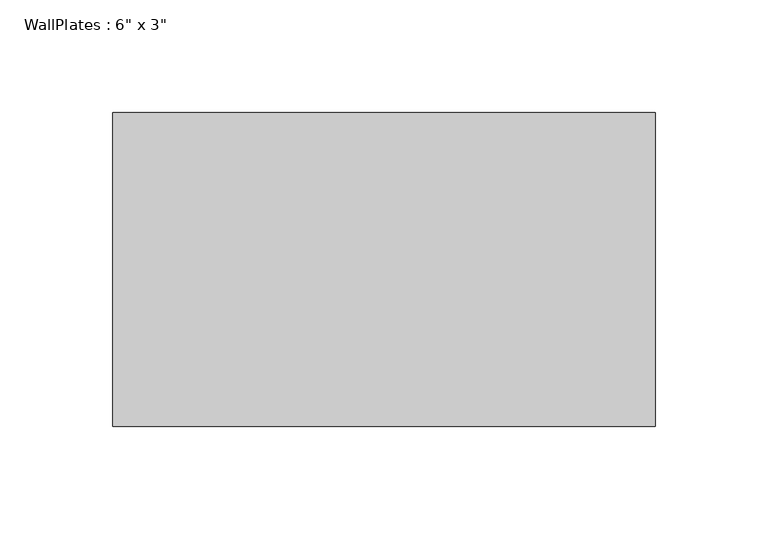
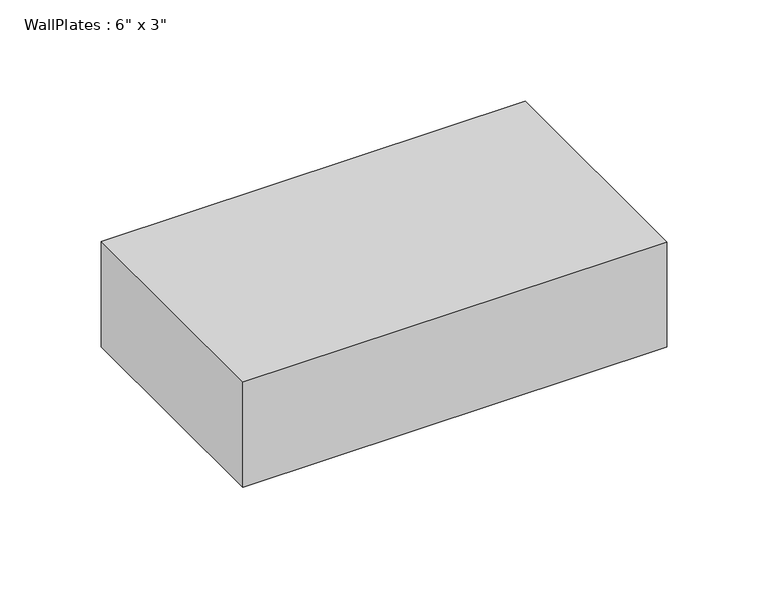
"""IFC4 building model written with IfcOpenShell, lengths in millimetres: beam geometry."""

from ifc_helpers import new_model, si_unit, frame, origin, place, context, project, spatial, polyline, outline, extrude, source, transform, mapped, element, save


def beam_99146412(model_context):
    return source(origin(), model_context, "Body", "SweptSolid", [
        extrude(outline(polyline([(-120.655, -69.85), (-120.655, 69.85), (120.655, 69.85), (120.655, -69.85), (-120.655, -69.85)])), frame((0.0, 0.0, -31.75), z_axis=(0.0, 0.0, 1.0), x_axis=(1.0, 0.0, 0.0)), (0.0, 0.0, 1.0), 63.5),
    ])


if __name__ == "__main__":
    model = new_model("IFC4")
    model_context = context("Model", 3, world=origin())
    ifc_project = project(units=[si_unit("LENGTHUNIT", "METRE", prefix="MILLI")], contexts=[model_context])
    site = spatial("IfcSite", under=ifc_project)
    building = spatial("IfcBuilding", under=site)
    placement = place(None, origin())
    beam_shape = beam_99146412(model_context)
    element("IfcBeam", 1, ObjectType="WallPlates : 6\" x 3\"", at=placement, inside=building, context=model_context, shape_type="MappedRepresentation", body=[
        mapped(beam_shape, transform((0.0, 0.0, 0.0), x_axis=(1.0, 0.0, 0.0), y_axis=(0.0, 1.0, 0.0), z_axis=(0.0, 0.0, 1.0))),
    ])
    save(model, "model.ifc")
